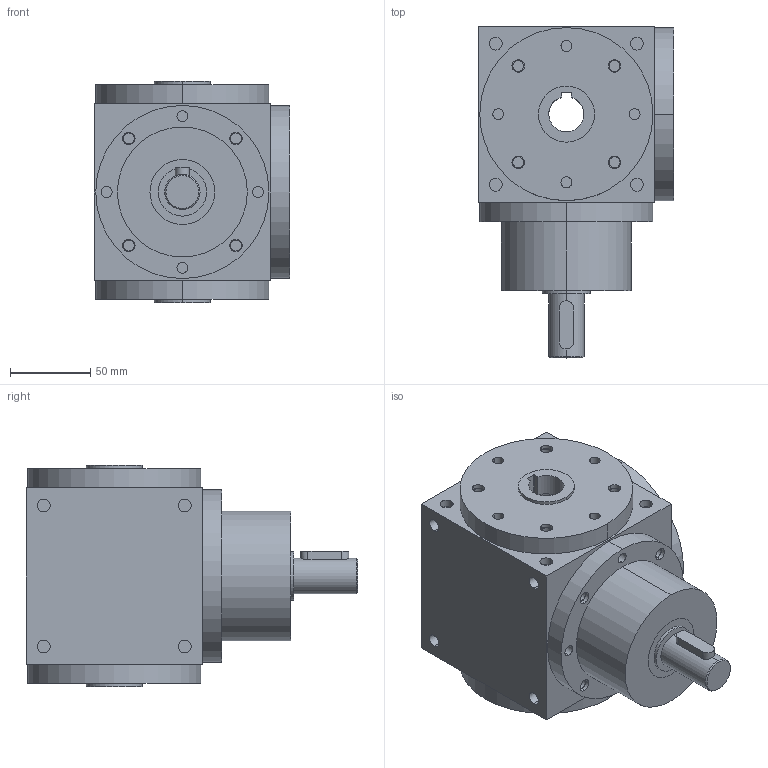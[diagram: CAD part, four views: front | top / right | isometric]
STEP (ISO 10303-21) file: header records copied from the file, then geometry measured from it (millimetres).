
FILE_DESCRIPTION (( 'STEP AP203' ), '1' );
FILE_NAME ('HDA-11-1-F.step', '2018-05-12T02:47:53', ( 'Windows 蚚誧' ), ( '' ), 'SwSTEP 2.0', 'SolidWorks 2016', '' );
FILE_SCHEMA (( 'CONFIG_CONTROL_DESIGN' ));
Length unit declared in the file: millimetre
Products named in the file (1): HDA-11-1-F
Bounding box: 122 x 207 x 138 mm (x, y, z)
Volume: 1944840.9 mm3; surface area: 174050.9 mm2
Topology: 4 solids, 4 shells, 218 faces, 453 edges, 302 vertices
Faces by surface type: cylinder 133, plane 83, cone 2
Entity records: 6072 total; most frequent: DIRECTION 1155, CARTESIAN_POINT 1046, ORIENTED_EDGE 906, AXIS2_PLACEMENT_3D 487, EDGE_CURVE 453, VERTEX_POINT 302, EDGE_LOOP 283, CIRCLE 268
